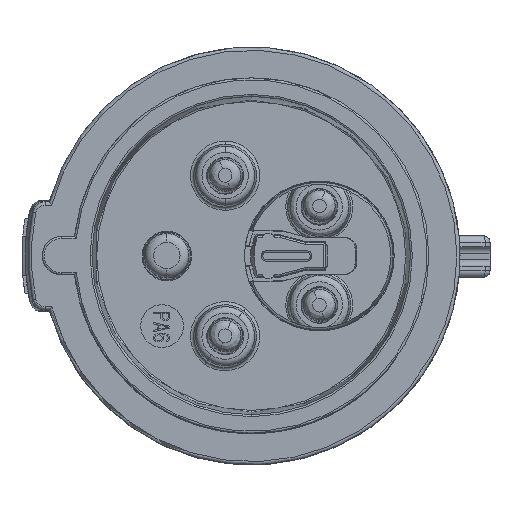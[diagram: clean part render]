
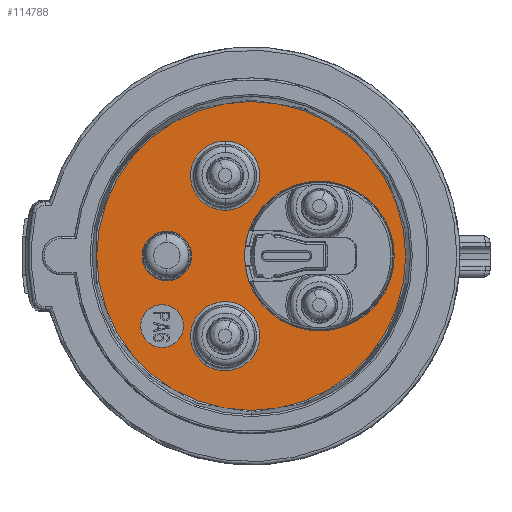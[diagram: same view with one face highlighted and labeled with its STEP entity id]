
A CAD part, top view. The second image highlights one B-rep face of the part: STEP entity #114788.
In plain terms, the highlighted planar face has unit normal (0, 0, 1).
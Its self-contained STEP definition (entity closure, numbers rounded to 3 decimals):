
#37858=CARTESIAN_POINT('',(0.,0.,3.));
#37859=DIRECTION('',(0.,0.,1.));
#37860=DIRECTION('',(0.,-1.,0.));
#37861=AXIS2_PLACEMENT_3D('',#37858,#37859,#37860);
#37873=CARTESIAN_POINT('',(0.,0.,3.));
#37874=DIRECTION('',(0.,0.,1.));
#37875=DIRECTION('',(0.,1.,0.));
#37876=AXIS2_PLACEMENT_3D('',#37873,#37874,#37875);
#37878=CARTESIAN_POINT('',(-13.25,0.,3.));
#37879=DIRECTION('',(0.,0.,-1.));
#37880=DIRECTION('',(0.,1.,0.));
#37881=AXIS2_PLACEMENT_3D('',#37878,#37879,#37880);
#37883=CARTESIAN_POINT('',(-13.25,0.,3.));
#37884=DIRECTION('',(0.,0.,1.));
#37885=DIRECTION('',(0.,1.,0.));
#37886=AXIS2_PLACEMENT_3D('',#37883,#37884,#37885);
#37888=CARTESIAN_POINT('',(10.7,0.,3.));
#37889=DIRECTION('',(0.,0.,1.));
#37890=DIRECTION('',(-1.,0.,0.));
#37891=AXIS2_PLACEMENT_3D('',#37888,#37889,#37890);
#37893=CARTESIAN_POINT('',(10.7,0.,3.));
#37894=DIRECTION('',(0.,0.,1.));
#37895=DIRECTION('',(1.,0.,0.));
#37896=AXIS2_PLACEMENT_3D('',#37893,#37894,#37895);
#37898=CARTESIAN_POINT('',(-14.,-11.,3.));
#37899=DIRECTION('',(0.,0.,1.));
#37900=DIRECTION('',(-1.,0.,0.));
#37901=AXIS2_PLACEMENT_3D('',#37898,#37899,#37900);
#37903=CARTESIAN_POINT('',(-14.,-11.,3.));
#37904=DIRECTION('',(0.,0.,1.));
#37905=DIRECTION('',(1.,0.,0.));
#37906=AXIS2_PLACEMENT_3D('',#37903,#37904,#37905);
#37992=CARTESIAN_POINT('',(-4.094,12.601,3.));
#37993=DIRECTION('',(0.,0.,1.));
#37994=DIRECTION('',(0.,1.,0.));
#37995=AXIS2_PLACEMENT_3D('',#37992,#37993,#37994);
#38007=CARTESIAN_POINT('',(-4.094,12.601,3.));
#38008=DIRECTION('',(0.,0.,1.));
#38009=DIRECTION('',(0.,-1.,0.));
#38010=AXIS2_PLACEMENT_3D('',#38007,#38008,#38009);
#38228=CARTESIAN_POINT('',(-4.094,-12.601,3.));
#38229=DIRECTION('',(0.,0.,1.));
#38230=DIRECTION('',(0.588,0.809,0.));
#38231=AXIS2_PLACEMENT_3D('',#38228,#38229,#38230);
#38243=CARTESIAN_POINT('',(-4.094,-12.601,3.));
#38244=DIRECTION('',(0.,0.,1.));
#38245=DIRECTION('',(-0.588,-0.809,0.));
#38246=AXIS2_PLACEMENT_3D('',#38243,#38244,#38245);
#46953=CARTESIAN_POINT('',(-4.094,18.031,3.));
#46954=CARTESIAN_POINT('',(-4.094,7.172,3.));
#46955=VERTEX_POINT('',#46953);
#46956=VERTEX_POINT('',#46954);
#46961=CARTESIAN_POINT('',(-0.903,-8.209,3.));
#46962=CARTESIAN_POINT('',(-7.286,-16.994,3.));
#46963=VERTEX_POINT('',#46961);
#46964=VERTEX_POINT('',#46962);
#47097=CARTESIAN_POINT('',(-1.063,0.,3.));
#47098=CARTESIAN_POINT('',(22.463,0.,3.));
#47099=VERTEX_POINT('',#47097);
#47100=VERTEX_POINT('',#47098);
#47129=CARTESIAN_POINT('',(0.,24.254,3.));
#47130=CARTESIAN_POINT('',(0.,-24.254,3.));
#47131=VERTEX_POINT('',#47129);
#47132=VERTEX_POINT('',#47130);
#47133=CARTESIAN_POINT('',(-13.25,3.887,3.));
#47134=CARTESIAN_POINT('',(-13.25,-3.887,3.));
#47135=VERTEX_POINT('',#47133);
#47136=VERTEX_POINT('',#47134);
#47141=CARTESIAN_POINT('',(-17.35,-11.,3.));
#47142=VERTEX_POINT('',#47141);
#47143=CARTESIAN_POINT('',(-10.65,-11.,3.));
#47144=VERTEX_POINT('',#47143);
#114749=CARTESIAN_POINT('',(0.,0.,3.));
#114750=DIRECTION('',(0.,0.,1.));
#114751=DIRECTION('',(0.,-1.,0.));
#114752=AXIS2_PLACEMENT_3D('',#114749,#114750,#114751);
#114753=PLANE('1648',#114752);
#114754=ORIENTED_EDGE('8151',*,*,#114717,.F.);
#114755=ORIENTED_EDGE('8153',*,*,#114695,.F.);
#114756=EDGE_LOOP('1648',(#114754,#114755));
#114757=FACE_OUTER_BOUND('1648',#114756,.F.);
#114759=ORIENTED_EDGE('8159',*,*,#114758,.F.);
#114761=ORIENTED_EDGE('8158',*,*,#114760,.T.);
#114762=EDGE_LOOP('1648',(#114759,#114761));
#114763=FACE_BOUND('1648',#114762,.F.);
#114765=ORIENTED_EDGE('8013',*,*,#114764,.T.);
#114767=ORIENTED_EDGE('8015',*,*,#114766,.T.);
#114768=EDGE_LOOP('1648',(#114765,#114767));
#114769=FACE_BOUND('1648',#114768,.F.);
#114771=ORIENTED_EDGE('8017',*,*,#114770,.T.);
#114773=ORIENTED_EDGE('8019',*,*,#114772,.T.);
#114774=EDGE_LOOP('1648',(#114771,#114773));
#114775=FACE_BOUND('1648',#114774,.F.);
#114777=ORIENTED_EDGE('8132',*,*,#114776,.T.);
#114779=ORIENTED_EDGE('8133',*,*,#114778,.T.);
#114780=EDGE_LOOP('1648',(#114777,#114779));
#114781=FACE_BOUND('1648',#114780,.F.);
#114783=ORIENTED_EDGE('10154',*,*,#114782,.T.);
#114785=ORIENTED_EDGE('10155',*,*,#114784,.T.);
#114786=EDGE_LOOP('1648',(#114783,#114785));
#114787=FACE_BOUND('1648',#114786,.F.);
#37862=CIRCLE('8153',#37861,24.254);
#37877=CIRCLE('8151',#37876,24.254);
#37882=CIRCLE('8159',#37881,3.887);
#37887=CIRCLE('8158',#37886,3.887);
#37892=CIRCLE('8132',#37891,11.763);
#37897=CIRCLE('8133',#37896,11.763);
#37902=CIRCLE('10154',#37901,3.35);
#37907=CIRCLE('10155',#37906,3.35);
#37996=CIRCLE('8013',#37995,5.43);
#38011=CIRCLE('8015',#38010,5.43);
#38232=CIRCLE('8017',#38231,5.43);
#38247=CIRCLE('8019',#38246,5.43);
#114695=EDGE_CURVE('8153',#47132,#47131,#37862,.T.);
#114717=EDGE_CURVE('8151',#47131,#47132,#37877,.T.);
#114758=EDGE_CURVE('8159',#47135,#47136,#37882,.T.);
#114760=EDGE_CURVE('8158',#47135,#47136,#37887,.T.);
#114764=EDGE_CURVE('8013',#46955,#46956,#37996,.T.);
#114766=EDGE_CURVE('8015',#46956,#46955,#38011,.T.);
#114770=EDGE_CURVE('8017',#46963,#46964,#38232,.T.);
#114772=EDGE_CURVE('8019',#46964,#46963,#38247,.T.);
#114776=EDGE_CURVE('8132',#47099,#47100,#37892,.T.);
#114778=EDGE_CURVE('8133',#47100,#47099,#37897,.T.);
#114782=EDGE_CURVE('10154',#47142,#47144,#37902,.T.);
#114784=EDGE_CURVE('10155',#47144,#47142,#37907,.T.);
#114788=ADVANCED_FACE('1648',(#114757,#114763,#114769,#114775,#114781,#114787),
#114753,.T.);
